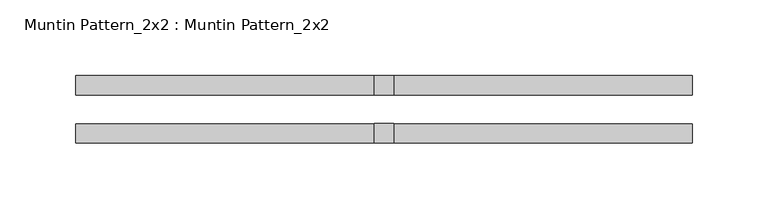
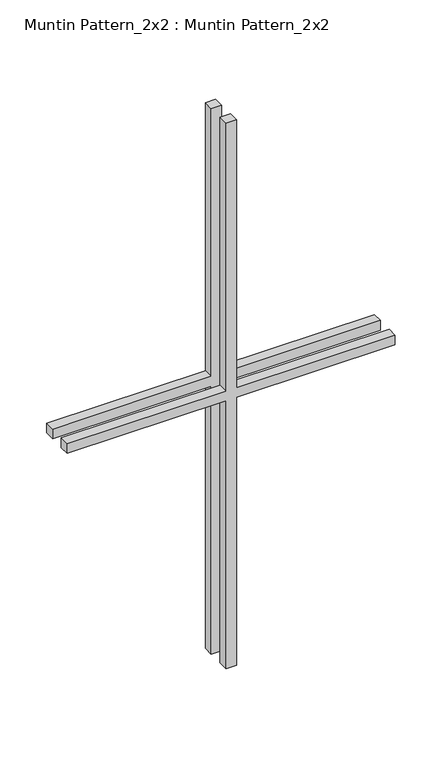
"""IFC4 building model written with IfcOpenShell, lengths in millimetres: proxy geometry, Muntin Pattern_2x2 : Muntin Pattern_2x2."""

from ifc_helpers import new_model, si_unit, frame, origin, place, context, project, spatial, polyline, outline, extrude, source, transform, mapped, element, save


def muntin_pattern_2x2_muntin_pattern_2x2_d55a54ed(model_context):
    return source(origin(), model_context, "Body", "SweptSolid", [
        extrude(outline(polyline([(363.5375, -6.35), (363.5375, -203.2), (350.8375, -203.2), (350.8375, -6.35), (0.0, -6.35), (0.0, 6.35), (350.8375, 6.35), (350.8375, 203.2), (363.5375, 203.2), (363.5375, 6.35), (714.375, 6.35), (714.375, -6.35), (363.5375, -6.35)])), frame((0.0, 9.525, 0.0), z_axis=(0.0, 1.0, 0.0), x_axis=(0.0, 0.0, 1.0)), (0.0, 0.0, 1.0), 12.7),
        extrude(outline(polyline([(363.5375, -6.35), (363.5375, -203.2), (350.8375, -203.2), (350.8375, -6.35), (0.0, -6.35), (0.0, 6.35), (350.8375, 6.35), (350.8375, 203.2), (363.5375, 203.2), (363.5375, 6.35), (714.375, 6.35), (714.375, -6.35), (363.5375, -6.35)])), frame((0.0, -22.225, 0.0), z_axis=(0.0, 1.0, 0.0), x_axis=(0.0, 0.0, 1.0)), (0.0, 0.0, 1.0), 12.7),
    ])


if __name__ == "__main__":
    model = new_model("IFC4")
    model_context = context("Model", 3, world=origin())
    ifc_project = project(units=[si_unit("LENGTHUNIT", "METRE", prefix="MILLI")], contexts=[model_context])
    site = spatial("IfcSite", under=ifc_project)
    building = spatial("IfcBuilding", under=site)
    placement = place(None, origin())
    muntin_pattern_2x2_muntin_pattern_2x2_shape = muntin_pattern_2x2_muntin_pattern_2x2_d55a54ed(model_context)
    element("IfcBuildingElementProxy", 1, Name="Muntin Pattern_2x2 : Muntin Pattern_2x2", ObjectType="Muntin Pattern_2x2 : Muntin Pattern_2x2", at=placement, inside=building, context=model_context, shape_type="MappedRepresentation", body=[
        mapped(muntin_pattern_2x2_muntin_pattern_2x2_shape, transform((0.0, 0.0, 0.0), x_axis=(1.0, 0.0, 0.0), y_axis=(0.0, 1.0, 0.0), z_axis=(0.0, 0.0, 1.0))),
    ])
    save(model, "model.ifc")
